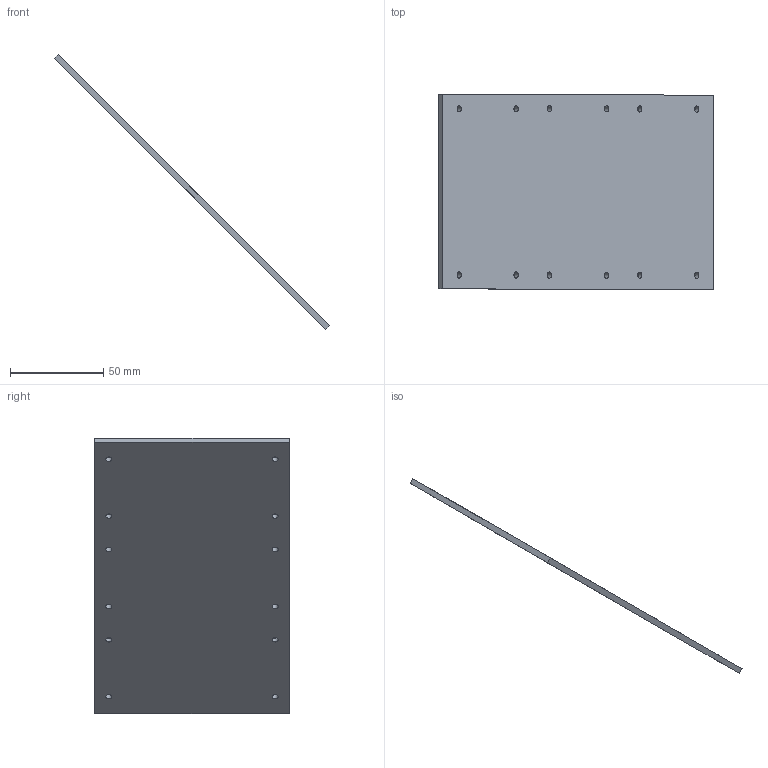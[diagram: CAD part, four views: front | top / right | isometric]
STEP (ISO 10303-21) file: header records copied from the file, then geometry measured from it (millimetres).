
FILE_DESCRIPTION(('STEP AP214'), '1');
FILE_NAME('Bottom_Skin', '', ('UNSPECIFIED'), ('UNSPECIFIED'), 'C3D Converter', 'C3D Toolkit', '');
FILE_SCHEMA(('AUTOMOTIVE_DESIGN { 1 0 10303 214 3 1 1}'));
Length unit declared in the file: millimetre
Bounding box: 147.32 x 104 x 147.32 mm (x, y, z)
Volume: 63760.4 mm3; surface area: 44736 mm2
Topology: 1 solids, 1 shells, 26 faces, 64 edges, 40 vertices
Faces by surface type: plane 14, bspline 12
Entity records: 10667 total; most frequent: CARTESIAN_POINT 10103, ORIENTED_EDGE 104, EDGE_LOOP 62, DIRECTION 58, EDGE_CURVE 52, VERTEX_POINT 40, FACE_BOUND 38, LINE 28
